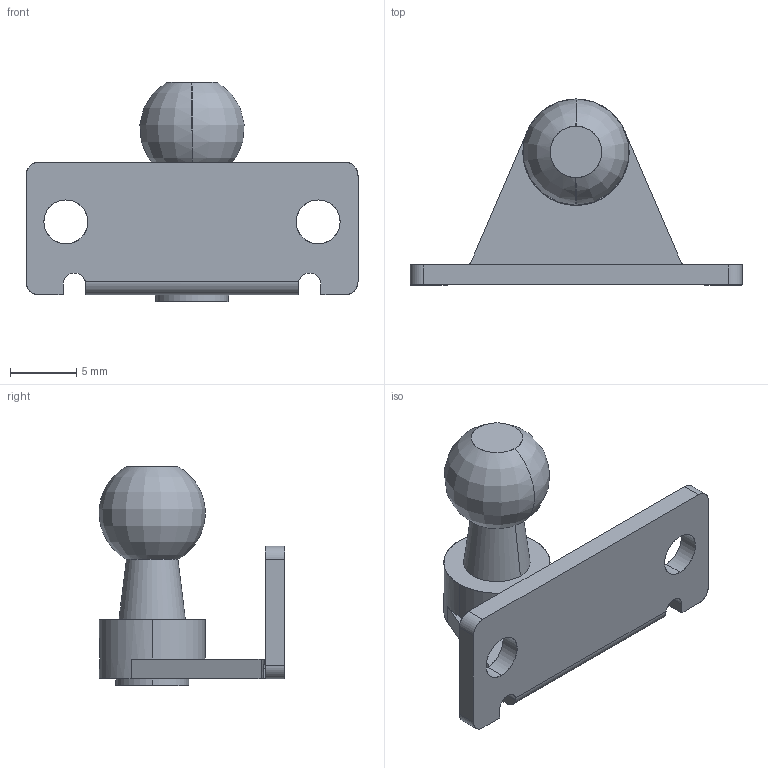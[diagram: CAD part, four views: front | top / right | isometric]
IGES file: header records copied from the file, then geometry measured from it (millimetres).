
Start section: SolidWorks IGES file using analytic representation for surfaces
Bounding box: 25 x 14 x 16.5 mm (x, y, z)
Surface area: 1187.3 mm2 (no closed solid volume)
Topology: 0 solids, 0 shells, 41 faces, 622 edges, 622 vertices
Faces by surface type: revolution 23, bspline 18
